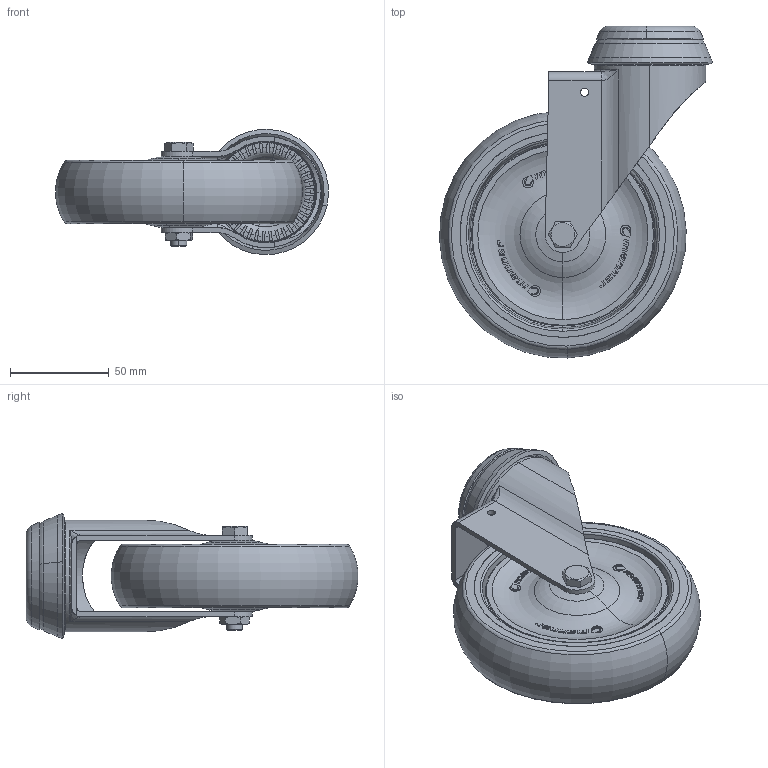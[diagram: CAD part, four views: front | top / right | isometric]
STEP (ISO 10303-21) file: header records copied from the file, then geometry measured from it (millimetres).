
FILE_DESCRIPTION (( 'STEP AP203' ), '1' );
FILE_NAME ('300354_STEP.STEP', '2012-02-27T12:00:35', ( '' ), ( '' ), 'SwSTEP 2.0', 'SolidWorks 2011', '' );
FILE_SCHEMA (( 'CONFIG_CONTROL_DESIGN' ));
Length unit declared in the file: millimetre
Products named in the file (1): 300354_STEP
Bounding box: 138.03 x 167.88 x 63.32 mm (x, y, z)
Surface area: 111047.6 mm2 (no closed solid volume)
Topology: 0 solids, 18 shells, 596 faces, 2693 edges, 2014 vertices
Faces by surface type: plane 315, cylinder 131, torus 96, cone 48, bspline 6
Entity records: 31976 total; most frequent: CARTESIAN_POINT 13766, ORIENTED_EDGE 3863, EDGE_CURVE 2689, DIRECTION 2645, VERTEX_POINT 2014, B_SPLINE_CURVE_WITH_KNOTS 1580, AXIS2_PLACEMENT_3D 961, VECTOR 723
